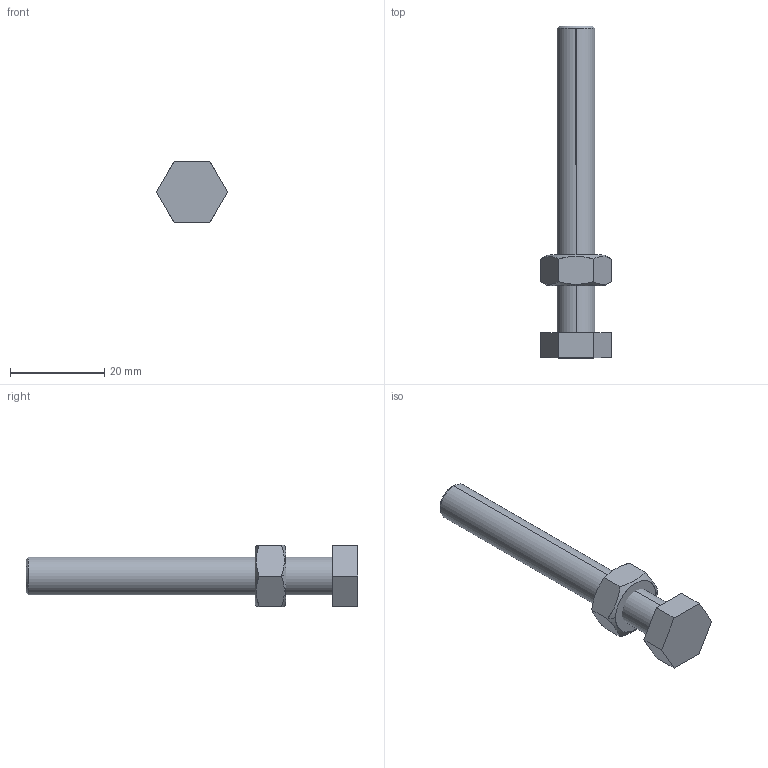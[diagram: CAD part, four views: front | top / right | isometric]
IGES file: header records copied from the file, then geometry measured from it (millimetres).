
Start section: SolidWorks IGES file using analytic representation for surfaces
Global section: file name: C:\Projetos\Ponteiras\PP\PP-M8.IGS; native system: SolidWorks 2011; preprocessor: SolidWorks 2011; author: Usuario; date: 110524.105252; units: millimetre
Bounding box: 15.01 x 70.3 x 13 mm (x, y, z)
Surface area: 2767.2 mm2 (no closed solid volume)
Topology: 0 solids, 0 shells, 31 faces, 468 edges, 468 vertices
Faces by surface type: bspline 17, revolution 14
